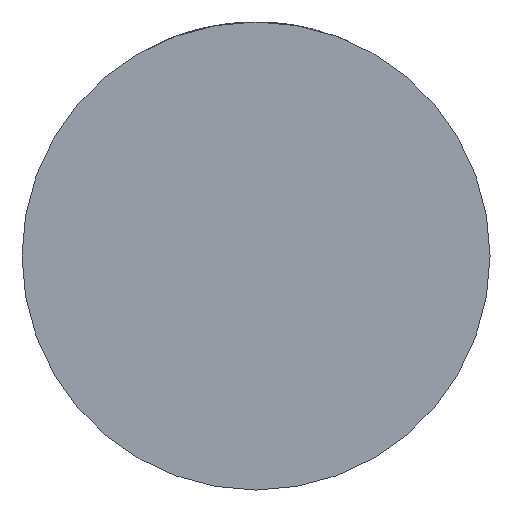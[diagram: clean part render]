
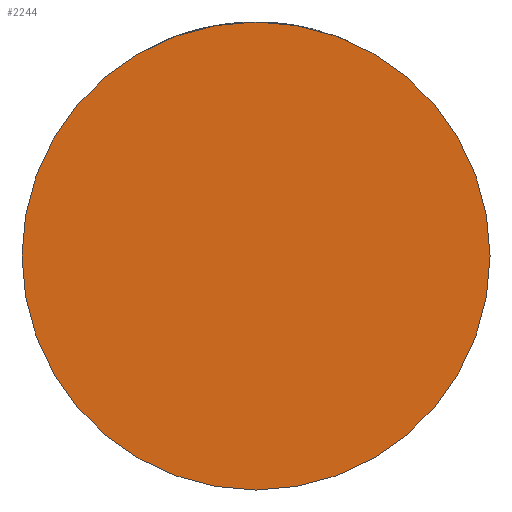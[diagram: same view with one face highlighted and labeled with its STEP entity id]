
A CAD part, front view. The second image highlights one B-rep face of the part: STEP entity #2244.
In plain terms, the highlighted planar face has unit normal (0, -1, 0).
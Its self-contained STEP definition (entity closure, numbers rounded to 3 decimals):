
#8 = DIRECTION ( 'NONE',  ( 0., -1., 0. ) ) ;
#614 = DIRECTION ( 'NONE',  ( 1., 0., 0. ) ) ;
#762 = DIRECTION ( 'NONE',  ( 1., 0., 0. ) ) ;
#808 = AXIS2_PLACEMENT_3D ( 'NONE', #1345, #8, #614 ) ;
#957 = CIRCLE ( 'NONE', #2219, 32. ) ;
#1135 = DIRECTION ( 'NONE',  ( 0., -1., 0. ) ) ;
#1313 = CARTESIAN_POINT ( 'NONE',  ( 32., -25., 0. ) ) ;
#1345 = CARTESIAN_POINT ( 'NONE',  ( 0., -25., 0. ) ) ;
#1429 = CARTESIAN_POINT ( 'NONE',  ( 0., -25., 0. ) ) ;
#1552 = ORIENTED_EDGE ( 'NONE', *, *, #3225, .T. ) ;
#1656 = DIRECTION ( 'NONE',  ( 0., -1., 0. ) ) ;
#1847 = VERTEX_POINT ( 'NONE', #3126 ) ;
#1853 = EDGE_CURVE ( 'NONE', #1847, #4210, #957, .T. ) ;
#1882 = EDGE_LOOP ( 'NONE', ( #2210, #1552 ) ) ;
#2048 = CARTESIAN_POINT ( 'NONE',  ( 0., -25., 0. ) ) ;
#2073 = AXIS2_PLACEMENT_3D ( 'NONE', #2048, #1656, #3061 ) ;
#2210 = ORIENTED_EDGE ( 'NONE', *, *, #1853, .T. ) ;
#2219 = AXIS2_PLACEMENT_3D ( 'NONE', #1429, #1135, #762 ) ;
#2244 = ADVANCED_FACE ( 'NONE', ( #3082 ), #2325, .T. ) ;
#2325 = PLANE ( 'NONE',  #2073 ) ;
#3061 = DIRECTION ( 'NONE',  ( 1., 0., 0. ) ) ;
#3082 = FACE_OUTER_BOUND ( 'NONE', #1882, .T. ) ;
#3126 = CARTESIAN_POINT ( 'NONE',  ( -32., -25., 0. ) ) ;
#3225 = EDGE_CURVE ( 'NONE', #4210, #1847, #4164, .T. ) ;
#4164 = CIRCLE ( 'NONE', #808, 32. ) ;
#4210 = VERTEX_POINT ( 'NONE', #1313 ) ;
